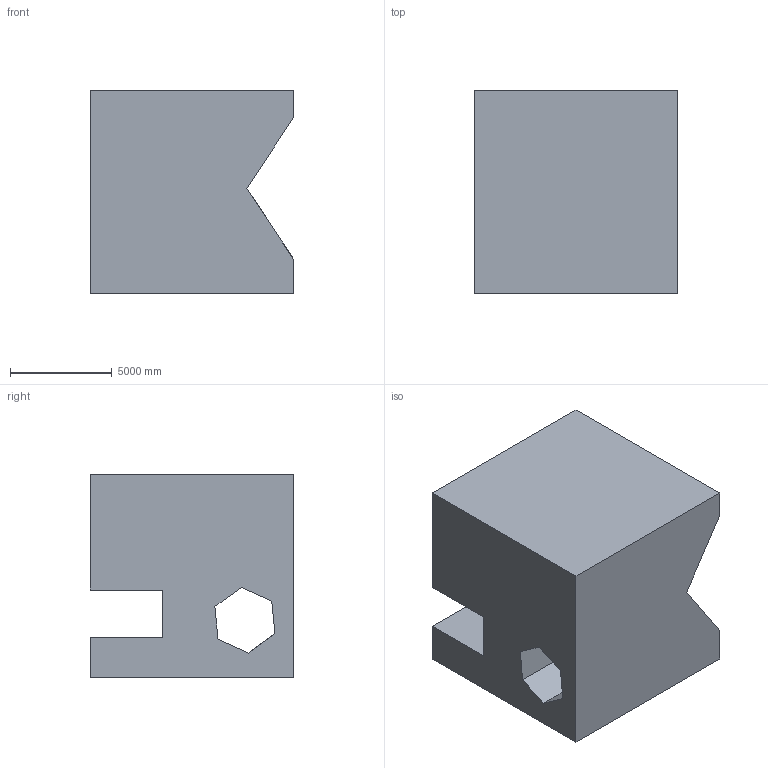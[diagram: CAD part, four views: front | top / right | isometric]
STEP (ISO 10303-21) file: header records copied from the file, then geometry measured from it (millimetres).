
FILE_DESCRIPTION (( 'STEP AP203' ), '1' );
FILE_NAME ('1255.STEP', '2022-08-18T13:25:03', ( 'user' ), ( '' ), 'SwSTEP 2.0', 'SolidWorks 2021', '' );
FILE_SCHEMA (( 'CONFIG_CONTROL_DESIGN' ));
Length unit declared in the file: centimetre
Products named in the file (1): 1255
Bounding box: 10000 x 10000 x 10000 mm (x, y, z)
Volume: 781434811991.1 mm3; surface area: 718721885.5 mm2
Topology: 1 solids, 1 shells, 19 faces, 54 edges, 36 vertices
Faces by surface type: plane 19
Entity records: 689 total; most frequent: CARTESIAN_POINT 110, ORIENTED_EDGE 108, DIRECTION 94, LINE 54, VECTOR 54, EDGE_CURVE 54, VERTEX_POINT 36, EDGE_LOOP 20
